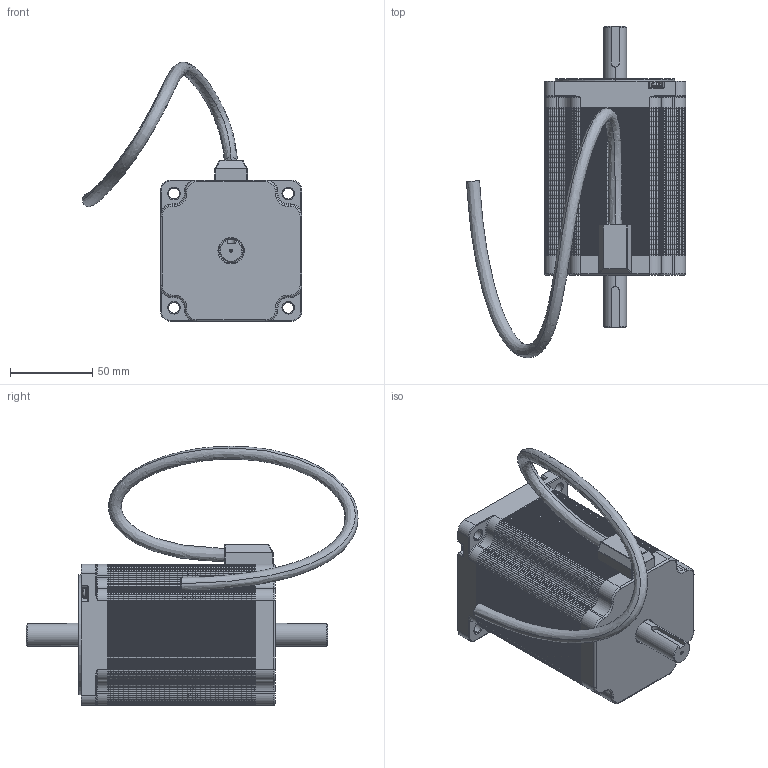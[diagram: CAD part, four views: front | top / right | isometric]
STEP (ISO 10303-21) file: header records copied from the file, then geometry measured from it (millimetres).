
FILE_DESCRIPTION (( 'STEP AP214' ), '1' );
FILE_NAME ('Nema 34 Stepper Motor shaft D14 length 118 key_DS.STEP', '2020-11-16T06:46:29', ( 'Moofasta' ), ( '' ), 'SwSTEP 2.0', 'SolidWorks 2020', '' );
FILE_SCHEMA (( 'AUTOMOTIVE_DESIGN' ));
Length unit declared in the file: millimetre
Products named in the file (1): Nema 34  Stepper Motor shaft D14 length 118 key_DS
Bounding box: 133.66 x 202.33 x 158.15 mm (x, y, z)
Volume: 812167.1 mm3; surface area: 1237564 mm2
Topology: 104 solids, 104 shells, 7399 faces, 16954 edges, 9750 vertices
Faces by surface type: plane 3696, cone 2163, cylinder 1288, bspline 126, torus 103, sphere 23
Entity records: 286053 total; most frequent: CARTESIAN_POINT 42336, DIRECTION 35979, ORIENTED_EDGE 33826, EDGE_CURVE 16913, AXIS2_PLACEMENT_3D 12149, VECTOR 11681, LINE 11681, VERTEX_POINT 9750
